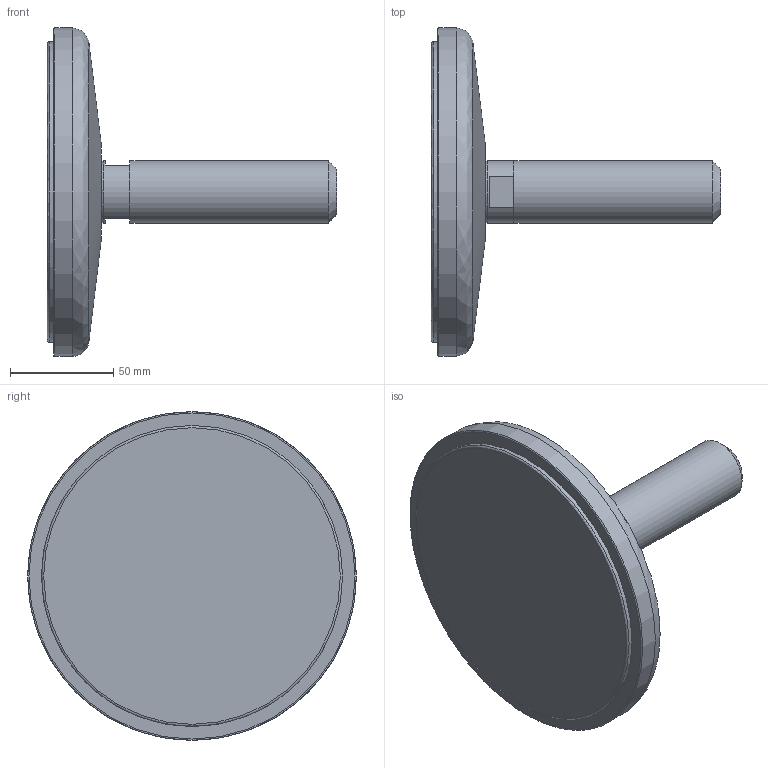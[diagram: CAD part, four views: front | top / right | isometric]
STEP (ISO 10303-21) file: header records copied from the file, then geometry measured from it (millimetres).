
FILE_DESCRIPTION(('STEP AP203'),'2;1');
FILE_NAME('12077.stp','2015-09-04T10:20:06',(''),(''),'2008.1.107','THINKDESIGN','');
FILE_SCHEMA(('CONFIG_CONTROL_DESIGN'));
Length unit declared in the file: millimetre
Bounding box: 140 x 159 x 159 mm (x, y, z)
Volume: 518110.7 mm3; surface area: 99352.2 mm2
Topology: 5 solids, 5 shells, 28 faces, 62 edges, 45 vertices
Faces by surface type: plane 15, bspline 7, cylinder 6
Full cylindrical faces by diameter (mm): 24 x1, 30 x2, 145.5 x2, 159 x1
Entity records: 1743 total; most frequent: CARTESIAN_POINT 998, DIRECTION 149, ORIENTED_EDGE 124, AXIS2_PLACEMENT_3D 66, EDGE_CURVE 62, VERTEX_POINT 45, CIRCLE 45, EDGE_LOOP 29
